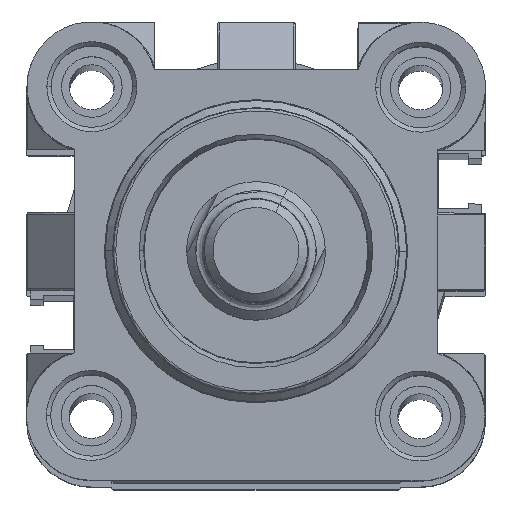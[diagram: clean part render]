
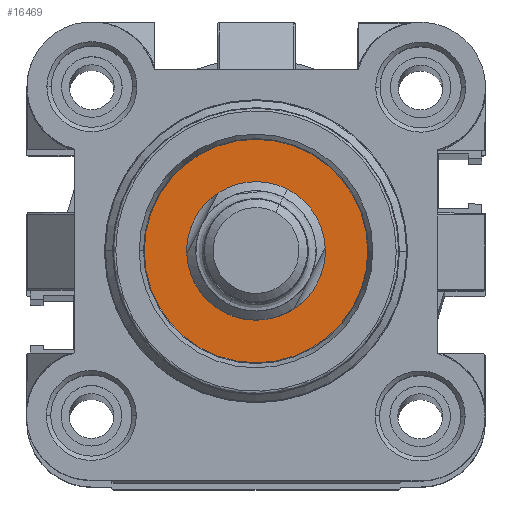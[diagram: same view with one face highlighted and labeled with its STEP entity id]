
A CAD part, top view. The second image highlights one B-rep face of the part: STEP entity #16469.
In plain terms, the highlighted planar face has unit normal (0, 0, 1) as drawn and (0, 0, -1) by its records, which use the part's own axes.
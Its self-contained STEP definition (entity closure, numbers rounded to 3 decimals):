
#23 = EDGE_CURVE ( 'NONE', #10355, #10675, #9817, .T. ) ;
#226 = VERTEX_POINT ( 'NONE', #2144 ) ;
#783 = DIRECTION ( 'NONE',  ( 0., 0., -1. ) ) ;
#858 = AXIS2_PLACEMENT_3D ( 'NONE', #8396, #783, #9696 ) ;
#1072 = CARTESIAN_POINT ( 'NONE',  ( 21., 21., -18.5 ) ) ;
#1997 = CARTESIAN_POINT ( 'NONE',  ( 34.073, 7.927, -18.5 ) ) ;
#2144 = CARTESIAN_POINT ( 'NONE',  ( 8.082, 21., -18.5 ) ) ;
#2327 = CIRCLE ( 'NONE', #858, 12.918 ) ;
#3252 = EDGE_CURVE ( 'NONE', #10675, #10355, #7537, .T. ) ;
#3270 = DIRECTION ( 'NONE',  ( 0., 0., -1. ) ) ;
#4270 = EDGE_LOOP ( 'NONE', ( #4351, #5873 ) ) ;
#4351 = ORIENTED_EDGE ( 'NONE', *, *, #10162, .T. ) ;
#4523 = EDGE_LOOP ( 'NONE', ( #12415, #15080 ) ) ;
#5628 = CARTESIAN_POINT ( 'NONE',  ( 21., 13., -18.5 ) ) ;
#5692 = DIRECTION ( 'NONE',  ( 0., 0., -1. ) ) ;
#5761 = FACE_OUTER_BOUND ( 'NONE', #4270, .T. ) ;
#5873 = ORIENTED_EDGE ( 'NONE', *, *, #12497, .T. ) ;
#6788 = CARTESIAN_POINT ( 'NONE',  ( 21., 21., -18.5 ) ) ;
#7537 = CIRCLE ( 'NONE', #15560, 8. ) ;
#8064 = DIRECTION ( 'NONE',  ( -1., 0., 0. ) ) ;
#8396 = CARTESIAN_POINT ( 'NONE',  ( 21., 21., -18.5 ) ) ;
#8701 = DIRECTION ( 'NONE',  ( 0., 0., -1. ) ) ;
#8783 = CARTESIAN_POINT ( 'NONE',  ( 21., 29., -18.5 ) ) ;
#9619 = PLANE ( 'NONE',  #10857 ) ;
#9696 = DIRECTION ( 'NONE',  ( -1., 0., 0. ) ) ;
#9750 = CARTESIAN_POINT ( 'NONE',  ( 33.918, 21., -18.5 ) ) ;
#9817 = CIRCLE ( 'NONE', #15619, 8. ) ;
#10162 = EDGE_CURVE ( 'NONE', #226, #10257, #2327, .T. ) ;
#10257 = VERTEX_POINT ( 'NONE', #9750 ) ;
#10355 = VERTEX_POINT ( 'NONE', #8783 ) ;
#10675 = VERTEX_POINT ( 'NONE', #5628 ) ;
#10857 = AXIS2_PLACEMENT_3D ( 'NONE', #1997, #3270, #12226 ) ;
#11479 = CIRCLE ( 'NONE', #11683, 12.918 ) ;
#11683 = AXIS2_PLACEMENT_3D ( 'NONE', #6788, #15742, #8064 ) ;
#12226 = DIRECTION ( 'NONE',  ( -1., 0., 0. ) ) ;
#12415 = ORIENTED_EDGE ( 'NONE', *, *, #23, .F. ) ;
#12497 = EDGE_CURVE ( 'NONE', #10257, #226, #11479, .T. ) ;
#13352 = CARTESIAN_POINT ( 'NONE',  ( 21., 21., -18.5 ) ) ;
#14632 = DIRECTION ( 'NONE',  ( 0., 1., 0. ) ) ;
#15080 = ORIENTED_EDGE ( 'NONE', *, *, #3252, .F. ) ;
#15546 = FACE_BOUND ( 'NONE', #4523, .T. ) ;
#15560 = AXIS2_PLACEMENT_3D ( 'NONE', #13352, #5692, #14632 ) ;
#15619 = AXIS2_PLACEMENT_3D ( 'NONE', #1072, #8701, #16382 ) ;
#15742 = DIRECTION ( 'NONE',  ( 0., 0., -1. ) ) ;
#16382 = DIRECTION ( 'NONE',  ( 0., 1., 0. ) ) ;
#16469 = ADVANCED_FACE ( 'NONE', ( #15546, #5761 ), #9619, .T. ) ;
